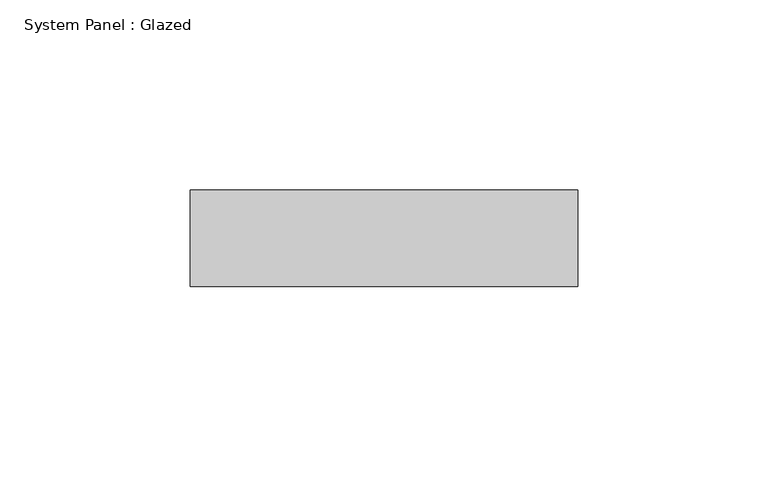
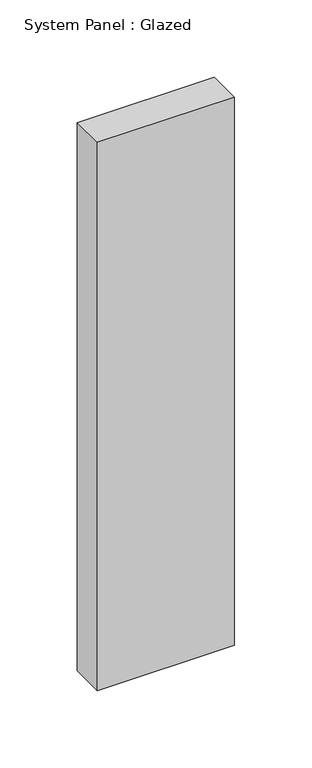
"""IFC4 building model written with IfcOpenShell, lengths in millimetres: plate geometry, System Panel : Glazed."""

from ifc_helpers import new_model, si_unit, origin, origin_with_axes, place, context, project, spatial, polyline, outline, extrude, source, transform, mapped, element, save


def system_panel_glazed_71b59b5f(model_context):
    return source(origin(), model_context, "Body", "SweptSolid", [
        extrude(outline(polyline([(51.009195, -44.45), (-51.009195, -44.45), (-51.009195, -19.05), (51.009195, -19.05), (51.009195, -44.45)])), origin_with_axes(), (0.0, 0.0, 1.0), 431.8),
    ])


if __name__ == "__main__":
    model = new_model("IFC4")
    model_context = context("Model", 3, world=origin())
    ifc_project = project(units=[si_unit("LENGTHUNIT", "METRE", prefix="MILLI")], contexts=[model_context])
    site = spatial("IfcSite", under=ifc_project)
    building = spatial("IfcBuilding", under=site)
    placement = place(None, origin())
    system_panel_glazed_shape = system_panel_glazed_71b59b5f(model_context)
    element("IfcPlate", 1, ObjectType="System Panel : Glazed", at=placement, inside=building, context=model_context, shape_type="MappedRepresentation", body=[
        mapped(system_panel_glazed_shape, transform((0.0, 0.0, 0.0), x_axis=(1.0, 0.0, 0.0), y_axis=(0.0, 1.0, 0.0), z_axis=(0.0, 0.0, 1.0))),
    ])
    save(model, "model.ifc")
